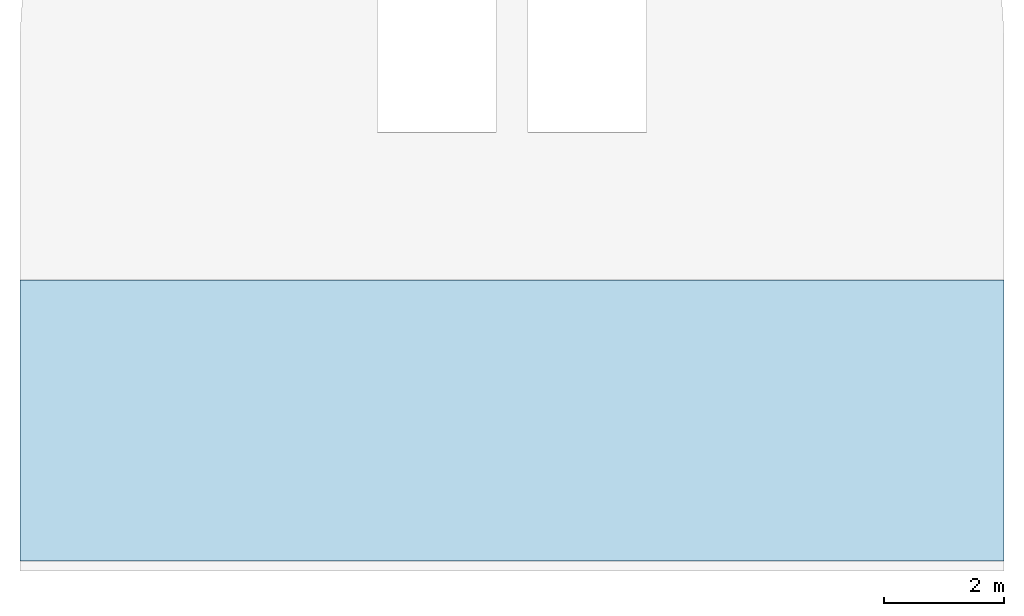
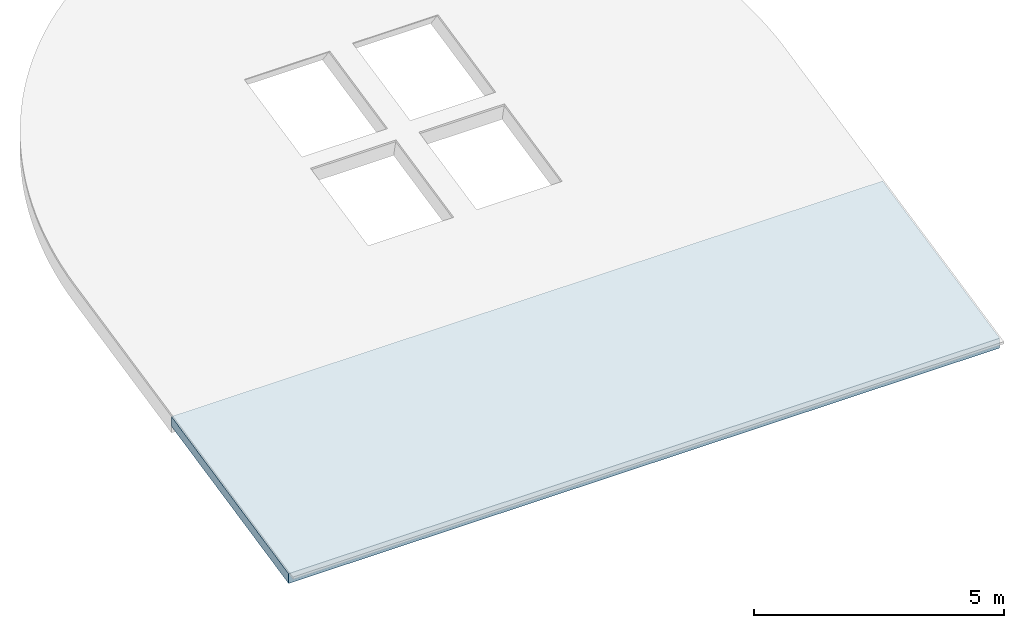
# One storey, part 1 of 3: 1 slab.
"""IFC4 building model written with IfcOpenShell, lengths in millimetres."""

from ifc_helpers import new_model, entity, si_unit, converted_unit, derived_unit, direction, frame, origin_with_axes, place, context, subcontext, project, spatial, line, indexed_curve, outline, extrude, material, layer, layer_set, layer_usage, type_object, element, save


model = new_model("IFC4")

# Units and contexts
model_context = context("Model", 3, precision=0.01, world=origin_with_axes(), true_north=direction((0.0, 1.0)))
body_context = subcontext(model_context, "Body", "Model", "MODEL_VIEW")
ifc_project = project(units=[si_unit("LENGTHUNIT", "METRE", prefix="MILLI"), si_unit("AREAUNIT", "SQUARE_METRE"), si_unit("VOLUMEUNIT", "CUBIC_METRE"), converted_unit("PLANEANGLEUNIT", "DEGREE", entity("IfcPlaneAngleMeasure", 0.0174532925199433), si_unit("PLANEANGLEUNIT", "RADIAN"), dimensions=[0, 0, 0, 0, 0, 0, 0]), converted_unit("TIMEUNIT", "Year", entity("IfcTimeMeasure", 31557600.0), si_unit("TIMEUNIT", "SECOND"), dimensions=[0, 0, 1, 0, 0, 0, 0]), si_unit("MASSUNIT", "GRAM", prefix="KILO"), si_unit("THERMODYNAMICTEMPERATUREUNIT", "DEGREE_CELSIUS"), si_unit("LUMINOUSINTENSITYUNIT", "LUMEN"), si_unit("ENERGYUNIT", "JOULE", prefix="MEGA"), derived_unit("THERMALCONDUCTANCEUNIT", [(si_unit("POWERUNIT", "WATT"), 1), (si_unit("LENGTHUNIT", "METRE"), -1), (si_unit("THERMODYNAMICTEMPERATUREUNIT", "KELVIN"), -1)]), derived_unit("SPECIFICHEATCAPACITYUNIT", [(si_unit("ENERGYUNIT", "JOULE"), 1), (si_unit("MASSUNIT", "GRAM", prefix="KILO"), -1), (si_unit("THERMODYNAMICTEMPERATUREUNIT", "KELVIN"), -1)]), derived_unit("MASSDENSITYUNIT", [(si_unit("MASSUNIT", "GRAM", prefix="KILO"), 1), (si_unit("VOLUMEUNIT", "CUBIC_METRE"), -1)])], contexts=[model_context])

# Site, building, storey
site_placement = place(None, origin_with_axes())
site = spatial("IfcSite", under=ifc_project, at=site_placement, Name="Exteriér", CompositionType="ELEMENT")
building_placement = place(site_placement, origin_with_axes())
building = spatial("IfcBuilding", under=site, at=building_placement, Name="Univerzitní lezecké centrum", CompositionType="ELEMENT")
storey_placement = place(building_placement, frame((0.0, 0.0, 12800.0), z_axis=(0.0, 0.0, 1.0), x_axis=(1.0, 0.0, 0.0)))
storey = spatial("IfcBuildingStorey", under=building, at=storey_placement, Name="Střecha", CompositionType="ELEMENT", Elevation=12800.0)

# Slab
ifc_material = material(Name="Ocelový válcovaný I profil")
ifc_layer = layer(ifc_material, 234.7554241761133, ventilated="UNKNOWN", Name="Ocelový válcovaný I profil")
ifc_layer_set = layer_set([ifc_layer], Name="Ocelový válcovaný I profil 234.755")
ifc_layer_usage = layer_usage(ifc_layer_set, "AXIS3", "NEGATIVE", 234.7554241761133)
slab_type = type_object("IfcSlabType", Name="Ocelový válcovaný I profil 235", PredefinedType="ROOF")
slab_placement = place(storey_placement, frame((-4450.14840074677, -15001.81368475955, -3611.078611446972), z_axis=(0.0, 0.0, 1.0), x_axis=(1.0, 0.0, 0.0)))
element("IfcSlab", 1, at=slab_placement, inside=storey, type_object=slab_type, material=ifc_layer_usage, Name="NS01", PredefinedType="ROOF", context=body_context, shape_type="SweptSolid", body=[
    extrude(outline(indexed_curve([(-1300.000000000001, 19988.61283316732), (-1300.000000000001, 15204.78063210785), (15100.00005533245, 15204.78063210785), (15100.00002564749, 19988.61283316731)], segments=[line(1, 2, 3, 4, 1)])), frame((0.0, 0.0, 0.0), z_axis=(0.0, -0.2079116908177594, 0.9781476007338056), x_axis=(1.0, 0.0, 0.0)), (0.0, 0.2079116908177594, 0.9781476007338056), 240.0),
])

save(model, "model.ifc")
